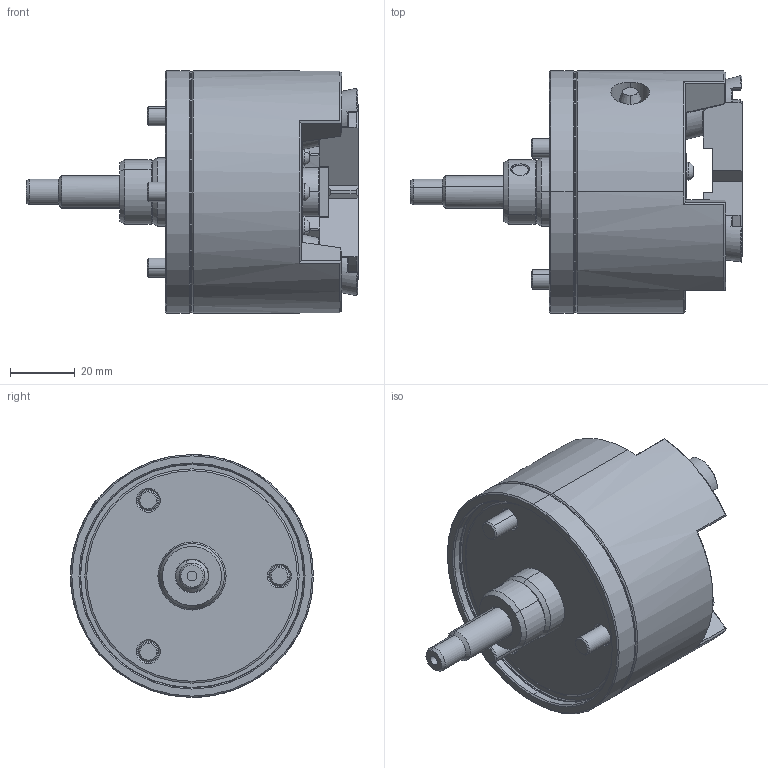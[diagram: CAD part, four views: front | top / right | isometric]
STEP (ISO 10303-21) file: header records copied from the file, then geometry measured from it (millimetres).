
FILE_DESCRIPTION (( 'STEP AP214' ), '1' );
FILE_NAME ('PU203_UC.STEP', '2019-10-18T07:03:44', ( '' ), ( '' ), 'SwSTEP 2.0', 'SolidWorks 2017', '' );
FILE_SCHEMA (( 'AUTOMOTIVE_DESIGN' ));
Length unit declared in the file: millimetre
Products named in the file (4): 結合; 0030105012; 61P449764; PU203_UC
Assembly tree (7 placements, depth 2):
  PU203_UC
    61P449764  x3
    0030105012  x3
    結合
Bounding box: 102.5 x 75 x 75 mm (x, y, z)
Volume: 199746.8 mm3; surface area: 40238.1 mm2
Topology: 7 solids, 7 shells, 973 faces, 2451 edges, 1547 vertices
Faces by surface type: plane 476, cone 164, bspline 163, cylinder 139, torus 31
Entity records: 33590 total; most frequent: CARTESIAN_POINT 13917, ORIENTED_EDGE 4378, DIRECTION 3449, EDGE_CURVE 2189, VERTEX_POINT 1397, LINE 1183, VECTOR 1183, AXIS2_PLACEMENT_3D 1133
